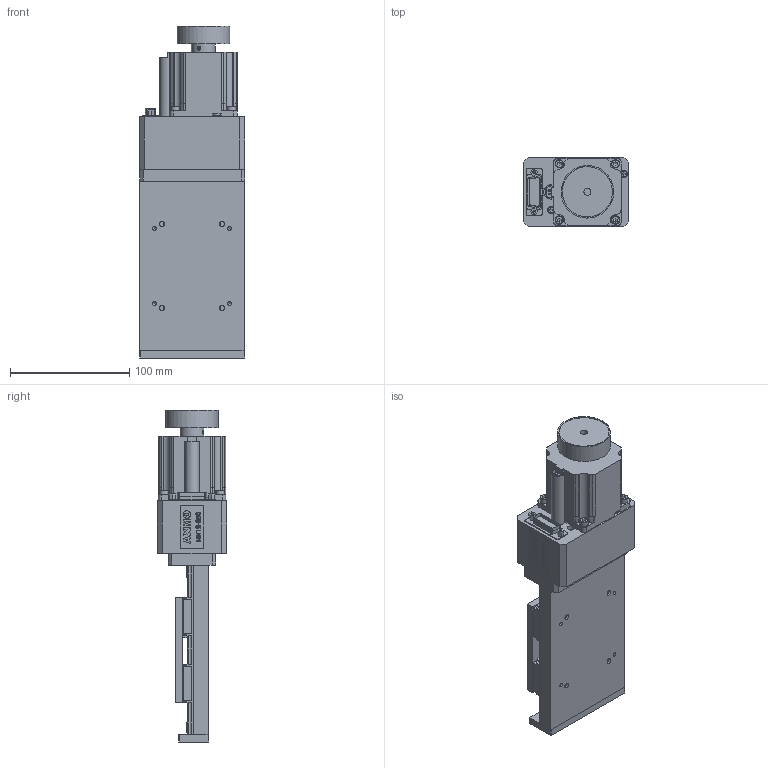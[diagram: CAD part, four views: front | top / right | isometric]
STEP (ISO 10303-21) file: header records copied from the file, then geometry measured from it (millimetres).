
FILE_DESCRIPTION((''),'2;1');
FILE_NAME('C:\Axmo\Axmo autodesk\Designs\Standard\1437 mnt9\MNT9-050.stp','2011-09-13T16:09:27',('AXMOBE'),(''),'Autodesk Inventor 2011','Autodesk Inventor 2011','');
FILE_SCHEMA(('AUTOMOTIVE_DESIGN { 1 2 10303 214 0 1 1 1 }'));
Length unit declared in the file: millimetre
Products named in the file (1): 1437 00 ENS 000-050_Enveloppe_1
Bounding box: 88.1 x 58 x 278 mm (x, y, z)
Volume: 631240.3 mm3; surface area: 139388.2 mm2
Topology: 1 solids, 116 shells, 2122 faces, 5054 edges, 3262 vertices
Faces by surface type: plane 1311, cylinder 438, cone 143, torus 117, bspline 97, sphere 16
Full cylindrical faces by diameter (mm): 1 x10, 1.5 x16, 1.567 x4, 1.754 x4, 2 x4, 2.013 x8, 2.1 x2, 2.25 x4, 2.459 x54, 2.5 x2, 2.8 x1, 3 x40, 3.1 x3, 3.242 x17, 3.5 x35, 4 x4, 4.5 x5, 5 x6, 5.5 x33, 5.7 x1, 6 x33, 6.2 x1, 6.35 x3, 6.459 x2, 7 x8, 7.5 x4, 7.8 x1, 8 x2, 9 x1, 10 x1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
Entity records: 60080 total; most frequent: CARTESIAN_POINT 13465, DIRECTION 8869, ORIENTED_EDGE 8422, EDGE_CURVE 4211, AXIS2_PLACEMENT_3D 3195, VERTEX_POINT 2991, EDGE_LOOP 2980, VECTOR 2479
